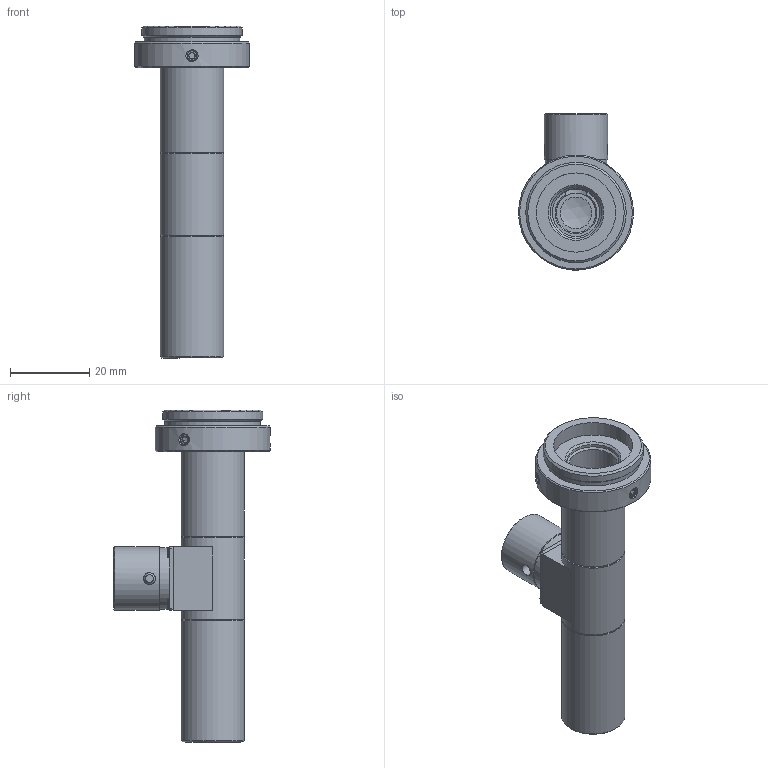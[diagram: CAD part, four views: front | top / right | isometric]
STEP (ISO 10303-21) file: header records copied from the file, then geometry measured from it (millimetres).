
FILE_DESCRIPTION(('STEP AP214'),'1');
FILE_NAME('RTK-1F-65.stp','2026-03-18T01:32:24',(' '),(' '),'Spatial InterOp 3D',' ',' ');
FILE_SCHEMA(('AUTOMOTIVE_DESIGN { 1 0 10303 214 1 1 1 1 }'));
Length unit declared in the file: metre
Products named in the file (2): RTK-1F-65; Component1
Assembly tree (1 placements, depth 2):
  RTK-1F-65
    Component1
Bounding box: 29 x 39.45 x 83.74 mm (x, y, z)
Volume: 13043.8 mm3; surface area: 11383.2 mm2
Topology: 1 solids, 1 shells, 273 faces, 661 edges, 424 vertices
Faces by surface type: plane 141, cone 77, cylinder 42, sphere 6, torus 4, bspline 3
Full cylindrical faces by diameter (mm): 2.5 x3, 3 x3, 8 x2, 9 x1, 10 x2, 12 x4, 13 x2, 13.4 x2, 13.5 x2, 13.7 x1, 14.2 x3, 14.5 x1, 14.7 x1, 15.5 x1, 16 x4, 20 x1, 24.12 x1, 25.32 x1, 29 x1
Entity records: 12825 total; most frequent: CARTESIAN_POINT 1941, DIRECTION 1258, ORIENTED_EDGE 1094, STYLED_ITEM 820, PRESENTATION_STYLE_ASSIGNMENT 820, COLOUR_RGB 820, EDGE_CURVE 547, CURVE_STYLE 547
